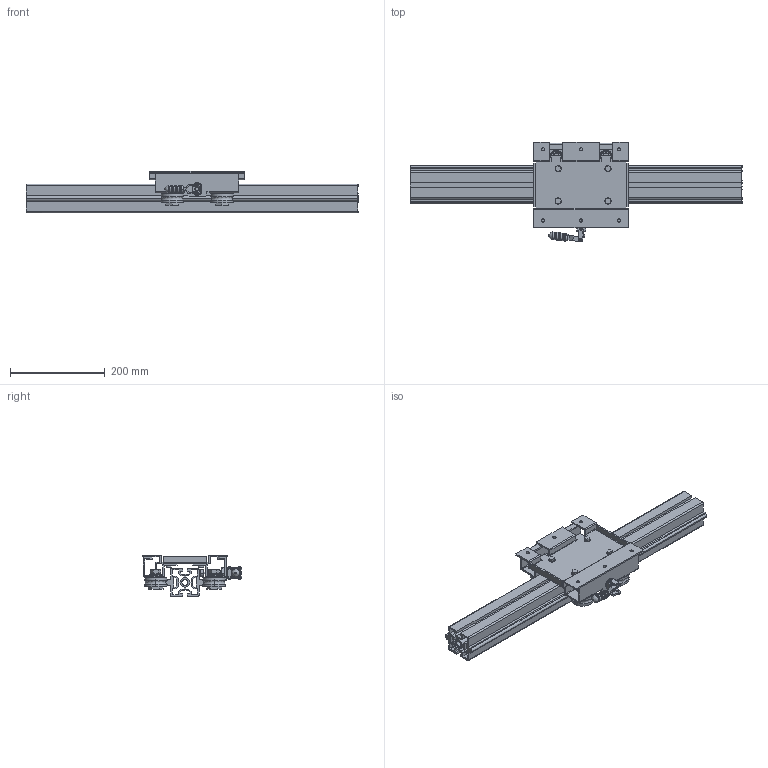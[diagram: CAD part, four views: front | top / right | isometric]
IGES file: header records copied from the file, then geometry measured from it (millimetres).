
Global section: file name: No Iges File Name specified; native system: AutoDesk Inventor R11.0; preprocessor: AutoDesk Inventor Iges Exporter R11.0; author: No Author specified; organization: No Organization specified; date: 20190610.115624; units: millimetre
Bounding box: 700 x 209.95 x 87 mm (x, y, z)
Surface area: 805807.8 mm2 (no closed solid volume)
Topology: 0 solids, 0 shells, 792 faces, 5072 edges, 5048 vertices
Faces by surface type: bspline 792
